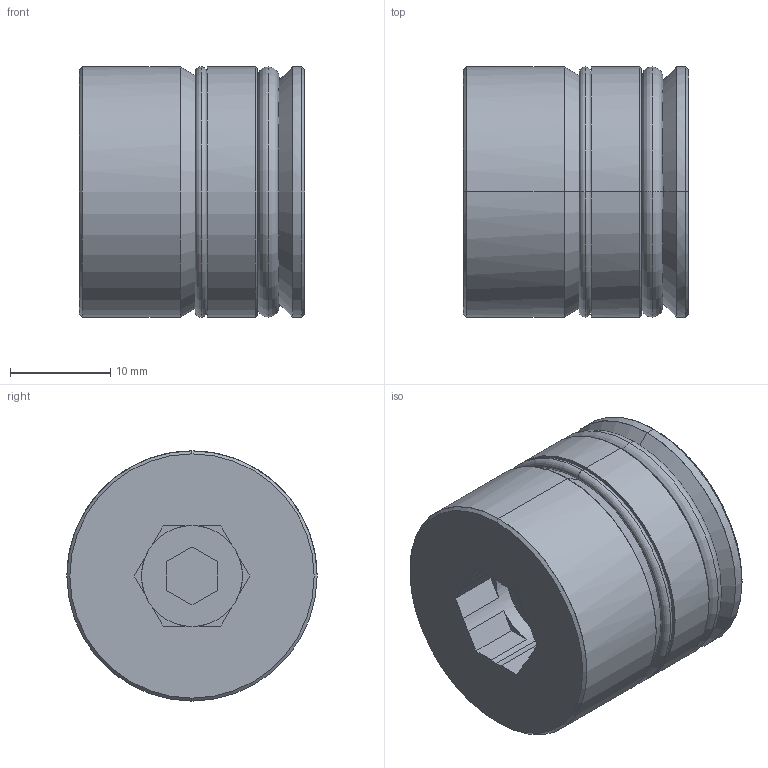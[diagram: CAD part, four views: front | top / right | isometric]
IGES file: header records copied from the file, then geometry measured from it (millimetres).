
Start section: START RECORD GO HERE.
Global section: file name: TRI-25.igs; native system: DASSAULT SYSTEMES CATIA V5 R20 - www.3ds.com; preprocessor: CATIA Version 5 Release 20 ; author: Utente; organization: NB04-ASUS; date: 20210222.200955; units: millimetre
Bounding box: 22.5 x 25 x 25 mm (x, y, z)
Surface area: 3435 mm2 (no closed solid volume)
Topology: 0 solids, 0 shells, 56 faces, 320 edges, 320 vertices
Faces by surface type: plane 30, revolution 26
